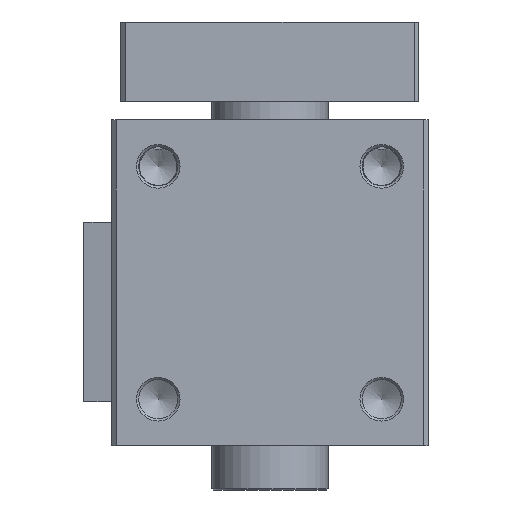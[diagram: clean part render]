
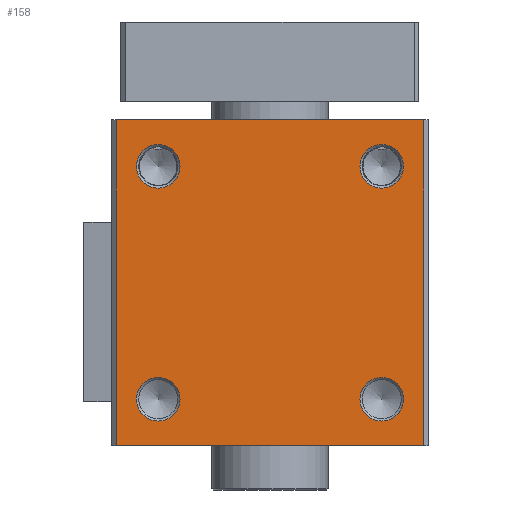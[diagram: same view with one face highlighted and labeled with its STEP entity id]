
A CAD part, left-side view. The second image highlights one B-rep face of the part: STEP entity #158.
In plain terms, the highlighted planar face has unit normal (-1, 0, 0).
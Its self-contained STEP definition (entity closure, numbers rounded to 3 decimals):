
#51=CARTESIAN_POINT('',(-85.057,34.794,-9.4));
#52=VERTEX_POINT('',#51);
#59=CARTESIAN_POINT('',(-85.057,34.794,60.6));
#60=VERTEX_POINT('',#59);
#61=CARTESIAN_POINT('',(-85.057,34.794,-9.4));
#62=DIRECTION('',(0.0,0.0,1.0));
#63=VECTOR('',#62,70.0);
#64=LINE('',#61,#63);
#65=EDGE_CURVE('',#52,#60,#64,.T.);
#84=CARTESIAN_POINT('',(-85.057,1.794,-9.4));
#85=DIRECTION('',(-1.0,0.0,0.0));
#86=DIRECTION('',(0.0,0.0,1.0));
#87=AXIS2_PLACEMENT_3D('',#84,#85,#86);
#88=PLANE('',#87);
#89=ORIENTED_EDGE('',*,*,#65,.F.);
#90=CARTESIAN_POINT('',(-85.057,-31.206,-9.4));
#91=VERTEX_POINT('',#90);
#92=CARTESIAN_POINT('',(-85.057,34.794,-9.4));
#93=DIRECTION('',(0.0,-1.0,0.0));
#94=VECTOR('',#93,66.0);
#95=LINE('',#92,#94);
#96=EDGE_CURVE('',#52,#91,#95,.T.);
#97=ORIENTED_EDGE('',*,*,#96,.T.);
#98=CARTESIAN_POINT('',(-85.057,-31.206,60.6));
#99=VERTEX_POINT('',#98);
#100=CARTESIAN_POINT('',(-85.057,-31.206,60.6));
#101=DIRECTION('',(0.0,0.0,-1.0));
#102=VECTOR('',#101,70.0);
#103=LINE('',#100,#102);
#104=EDGE_CURVE('',#99,#91,#103,.T.);
#105=ORIENTED_EDGE('',*,*,#104,.F.);
#106=CARTESIAN_POINT('',(-85.057,34.794,60.6));
#107=DIRECTION('',(0.0,-1.0,0.0));
#108=VECTOR('',#107,66.0);
#109=LINE('',#106,#108);
#110=EDGE_CURVE('',#60,#99,#109,.T.);
#111=ORIENTED_EDGE('',*,*,#110,.F.);
#112=EDGE_LOOP('',(#89,#97,#105,#111));
#113=FACE_OUTER_BOUND('',#112,.T.);
#114=CARTESIAN_POINT('',(-85.057,25.794,55.288));
#115=VERTEX_POINT('',#114);
#116=CARTESIAN_POINT('',(-85.057,25.794,50.6));
#117=DIRECTION('',(-1.0,0.0,0.0));
#118=DIRECTION('',(0.0,0.0,-1.0));
#119=AXIS2_PLACEMENT_3D('',#116,#117,#118);
#120=CIRCLE('',#119,4.688);
#121=EDGE_CURVE('',#115,#115,#120,.T.);
#122=ORIENTED_EDGE('',*,*,#121,.F.);
#123=EDGE_LOOP('',(#122));
#124=FACE_BOUND('',#123,.T.);
#125=CARTESIAN_POINT('',(-85.057,25.794,5.288));
#126=VERTEX_POINT('',#125);
#127=CARTESIAN_POINT('',(-85.057,25.794,0.6));
#128=DIRECTION('',(-1.0,0.0,0.0));
#129=DIRECTION('',(0.0,0.0,-1.0));
#130=AXIS2_PLACEMENT_3D('',#127,#128,#129);
#131=CIRCLE('',#130,4.688);
#132=EDGE_CURVE('',#126,#126,#131,.T.);
#133=ORIENTED_EDGE('',*,*,#132,.F.);
#134=EDGE_LOOP('',(#133));
#135=FACE_BOUND('',#134,.T.);
#136=CARTESIAN_POINT('',(-85.057,-22.206,55.288));
#137=VERTEX_POINT('',#136);
#138=CARTESIAN_POINT('',(-85.057,-22.206,50.6));
#139=DIRECTION('',(-1.0,0.0,0.0));
#140=DIRECTION('',(0.0,0.0,-1.0));
#141=AXIS2_PLACEMENT_3D('',#138,#139,#140);
#142=CIRCLE('',#141,4.688);
#143=EDGE_CURVE('',#137,#137,#142,.T.);
#144=ORIENTED_EDGE('',*,*,#143,.F.);
#145=EDGE_LOOP('',(#144));
#146=FACE_BOUND('',#145,.T.);
#147=CARTESIAN_POINT('',(-85.057,-22.206,5.288));
#148=VERTEX_POINT('',#147);
#149=CARTESIAN_POINT('',(-85.057,-22.206,0.6));
#150=DIRECTION('',(-1.0,0.0,0.0));
#151=DIRECTION('',(0.0,0.0,-1.0));
#152=AXIS2_PLACEMENT_3D('',#149,#150,#151);
#153=CIRCLE('',#152,4.688);
#154=EDGE_CURVE('',#148,#148,#153,.T.);
#155=ORIENTED_EDGE('',*,*,#154,.F.);
#156=EDGE_LOOP('',(#155));
#157=FACE_BOUND('',#156,.T.);
#158=ADVANCED_FACE('',(#113,#124,#135,#146,#157),#88,.T.);
